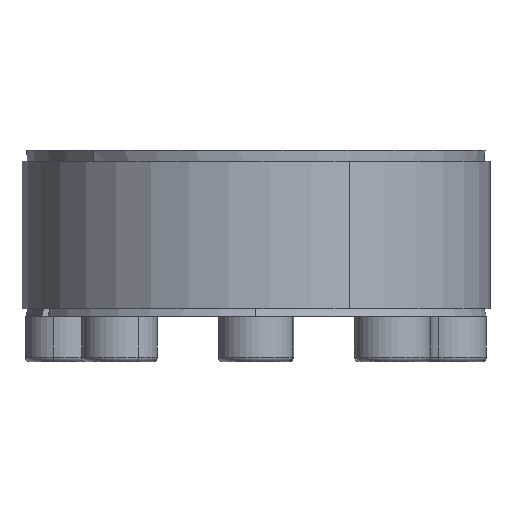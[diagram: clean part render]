
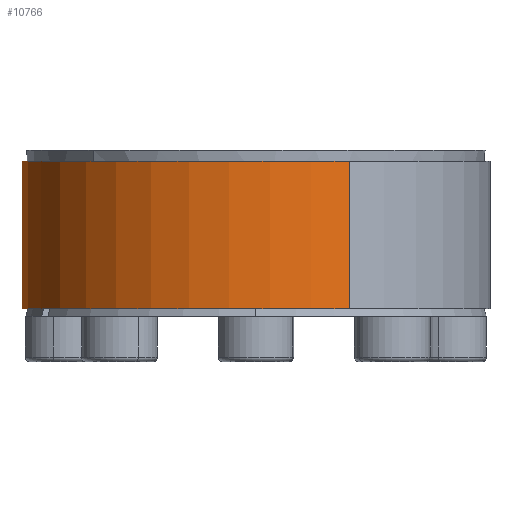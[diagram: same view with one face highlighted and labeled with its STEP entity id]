
A CAD part, left-side view. The second image highlights one B-rep face of the part: STEP entity #10766.
In plain terms, the highlighted cylindrical face has radius 30.985 mm (diameter 61.97 mm), a partial arc.
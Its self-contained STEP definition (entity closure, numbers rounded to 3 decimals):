
#762 = CIRCLE ( 'NONE', #3117, 30.985 ) ;
#1026 = ORIENTED_EDGE ( 'NONE', *, *, #10587, .T. ) ;
#1350 = DIRECTION ( 'NONE',  ( 0., 0., -1. ) ) ;
#1516 = DIRECTION ( 'NONE',  ( 0., 0., -1. ) ) ;
#2241 = ORIENTED_EDGE ( 'NONE', *, *, #6462, .F. ) ;
#2951 = CARTESIAN_POINT ( 'NONE',  ( 0., 0., 20.484 ) ) ;
#3053 = CYLINDRICAL_SURFACE ( 'NONE', #11805, 30.985 ) ;
#3117 = AXIS2_PLACEMENT_3D ( 'NONE', #10436, #4630, #11427 ) ;
#3176 = CIRCLE ( 'NONE', #4335, 30.985 ) ;
#3939 = DIRECTION ( 'NONE',  ( -0.917, -0.399, 0. ) ) ;
#3998 = VERTEX_POINT ( 'NONE', #4693 ) ;
#4199 = ORIENTED_EDGE ( 'NONE', *, *, #5548, .T. ) ;
#4335 = AXIS2_PLACEMENT_3D ( 'NONE', #2951, #9770, #3939 ) ;
#4630 = DIRECTION ( 'NONE',  ( 0., 0., 1. ) ) ;
#4693 = CARTESIAN_POINT ( 'NONE',  ( -28.415, -12.355, 20.484 ) ) ;
#5548 = EDGE_CURVE ( 'NONE', #11758, #7048, #762, .T. ) ;
#5743 = CARTESIAN_POINT ( 'NONE',  ( 28.415, 12.355, 0.984 ) ) ;
#6462 = EDGE_CURVE ( 'NONE', #3998, #7048, #11995, .T. ) ;
#7030 = VECTOR ( 'NONE', #1350, 1000. ) ;
#7048 = VERTEX_POINT ( 'NONE', #12561 ) ;
#7182 = CARTESIAN_POINT ( 'NONE',  ( 28.415, 12.355, 20.484 ) ) ;
#7323 = ORIENTED_EDGE ( 'NONE', *, *, #9150, .F. ) ;
#7818 = VERTEX_POINT ( 'NONE', #10882 ) ;
#8507 = VECTOR ( 'NONE', #8940, 1000. ) ;
#8940 = DIRECTION ( 'NONE',  ( 0., 0., -1. ) ) ;
#9150 = EDGE_CURVE ( 'NONE', #7818, #3998, #3176, .T. ) ;
#9343 = DIRECTION ( 'NONE',  ( 0.917, 0.399, 0. ) ) ;
#9612 = LINE ( 'NONE', #7182, #7030 ) ;
#9770 = DIRECTION ( 'NONE',  ( 0., 0., 1. ) ) ;
#9957 = CARTESIAN_POINT ( 'NONE',  ( -28.415, -12.355, 20.484 ) ) ;
#10274 = CARTESIAN_POINT ( 'NONE',  ( 0., 0., 20.484 ) ) ;
#10436 = CARTESIAN_POINT ( 'NONE',  ( 0., 0., 0.984 ) ) ;
#10587 = EDGE_CURVE ( 'NONE', #7818, #11758, #9612, .T. ) ;
#10766 = ADVANCED_FACE ( 'NONE', ( #11743 ), #3053, .T. ) ;
#10882 = CARTESIAN_POINT ( 'NONE',  ( 28.415, 12.355, 20.484 ) ) ;
#11427 = DIRECTION ( 'NONE',  ( -0.917, -0.399, 0. ) ) ;
#11743 = FACE_OUTER_BOUND ( 'NONE', #12455, .T. ) ;
#11758 = VERTEX_POINT ( 'NONE', #5743 ) ;
#11805 = AXIS2_PLACEMENT_3D ( 'NONE', #10274, #1516, #9343 ) ;
#11995 = LINE ( 'NONE', #9957, #8507 ) ;
#12455 = EDGE_LOOP ( 'NONE', ( #2241, #7323, #1026, #4199 ) ) ;
#12561 = CARTESIAN_POINT ( 'NONE',  ( -28.415, -12.355, 0.984 ) ) ;
